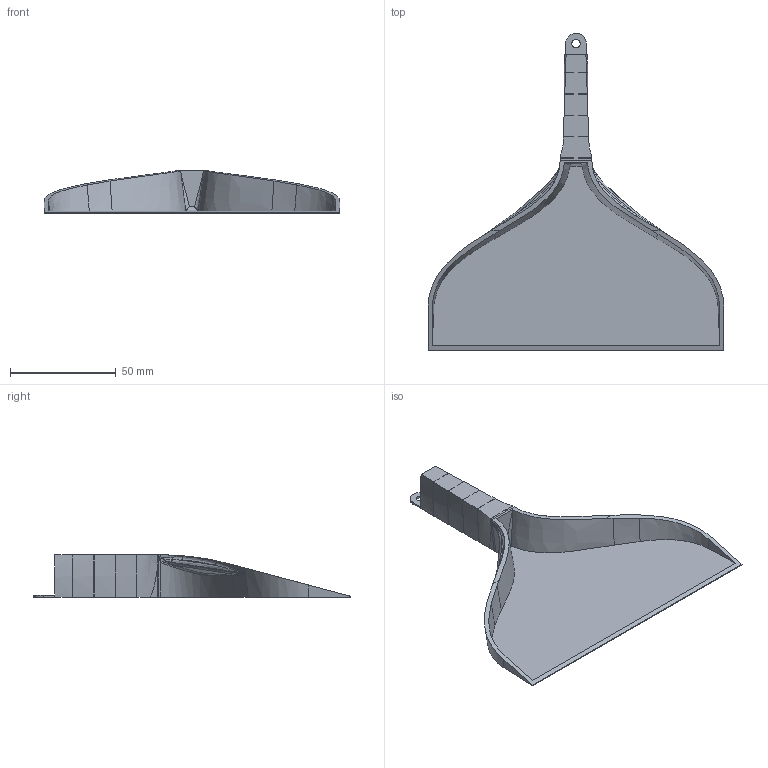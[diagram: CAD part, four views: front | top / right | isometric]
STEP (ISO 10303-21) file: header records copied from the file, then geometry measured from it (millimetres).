
FILE_DESCRIPTION (( 'STEP AP203' ), '1' );
FILE_NAME ('dustpan thinwall.STEP', '2016-04-01T15:18:12', ( '' ), ( '' ), 'SwSTEP 2.0', 'SolidWorks 2014', '' );
FILE_SCHEMA (( 'CONFIG_CONTROL_DESIGN' ));
Length unit declared in the file: millimetre
Products named in the file (1): dustpan thinwall
Bounding box: 140 x 150 x 20 mm (x, y, z)
Volume: 25337 mm3; surface area: 27603.5 mm2
Topology: 1 solids, 1 shells, 119 faces, 323 edges, 192 vertices
Faces by surface type: bspline 65, plane 47, cylinder 5, torus 2
Entity records: 15032 total; most frequent: CARTESIAN_POINT 12561, ORIENTED_EDGE 618, EDGE_CURVE 309, DIRECTION 298, VERTEX_POINT 192, B_SPLINE_CURVE_WITH_KNOTS 149, VECTOR 132, LINE 132
